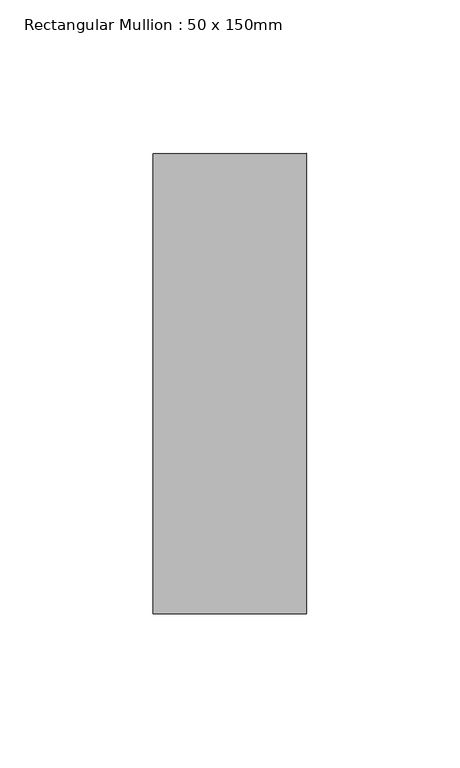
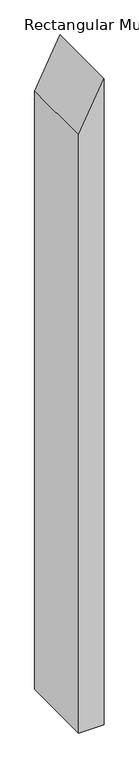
"""IFC4 building model written with IfcOpenShell, lengths in millimetres: member geometry, Rectangular Mullion : 50 x 150mm."""

from ifc_helpers import new_model, si_unit, frame, origin, place, context, project, spatial, polyline, outline, extrude, source, transform, mapped, element, save


def rectangular_mullion_50_x_150mm_061ece6c(model_context):
    return source(origin(), model_context, "Body", "SweptSolid", [
        extrude(outline(polyline([(-61.519489, 25.0), (-160.7985003, -25.0), (-1403.7405195, -25.0), (-1403.7405195, 25.0), (-61.519489, 25.0)])), frame((0.0, -75.0, 0.0), z_axis=(0.0, 1.0, 0.0), x_axis=(0.0, 0.0, 1.0)), (0.0, 0.0, 1.0), 150.0),
    ])


if __name__ == "__main__":
    model = new_model("IFC4")
    model_context = context("Model", 3, world=origin())
    ifc_project = project(units=[si_unit("LENGTHUNIT", "METRE", prefix="MILLI")], contexts=[model_context])
    site = spatial("IfcSite", under=ifc_project)
    building = spatial("IfcBuilding", under=site)
    placement = place(None, origin())
    rectangular_mullion_50_x_150mm_shape = rectangular_mullion_50_x_150mm_061ece6c(model_context)
    element("IfcMember", 1, ObjectType="Rectangular Mullion : 50 x 150mm", at=placement, inside=building, context=model_context, shape_type="MappedRepresentation", body=[
        mapped(rectangular_mullion_50_x_150mm_shape, transform((0.0, 0.0, 0.0), x_axis=(1.0, 0.0, 0.0), y_axis=(0.0, 1.0, 0.0), z_axis=(0.0, 0.0, 1.0))),
    ])
    save(model, "model.ifc")
